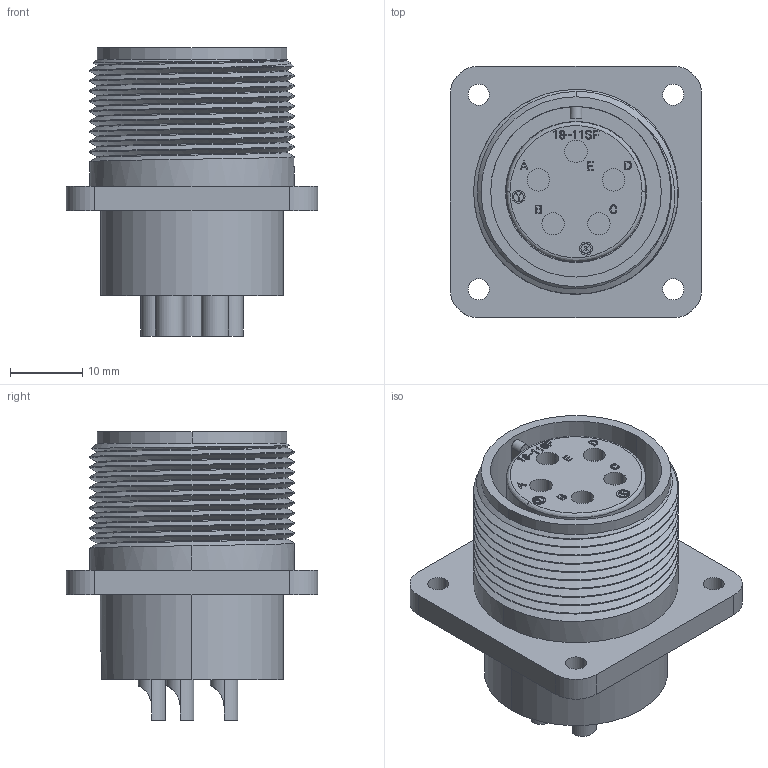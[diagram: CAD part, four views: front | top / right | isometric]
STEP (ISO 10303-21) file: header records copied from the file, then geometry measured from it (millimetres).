
FILE_DESCRIPTION (( 'STEP AP203' ), '1' );
FILE_NAME ('DMS3102A18-11S.STEP', '2017-05-17T00:21:45', ( '' ), ( '' ), 'SwSTEP 2.0', 'SolidWorks 2015', '' );
FILE_SCHEMA (( 'CONFIG_CONTROL_DESIGN' ));
Length unit declared in the file: millimetre
Products named in the file (1): DMS3102A18-11S
Bounding box: 34.92 x 34.92 x 40.03 mm (x, y, z)
Volume: 17660.5 mm3; surface area: 10768.5 mm2
Topology: 1 solids, 1 shells, 680 faces, 1800 edges, 1184 vertices
Faces by surface type: plane 293, bspline 231, cylinder 154, cone 2
Entity records: 29042 total; most frequent: CARTESIAN_POINT 13806, ORIENTED_EDGE 3600, DIRECTION 2337, EDGE_CURVE 1800, VERTEX_POINT 1184, LINE 1031, VECTOR 1031, EDGE_LOOP 752
